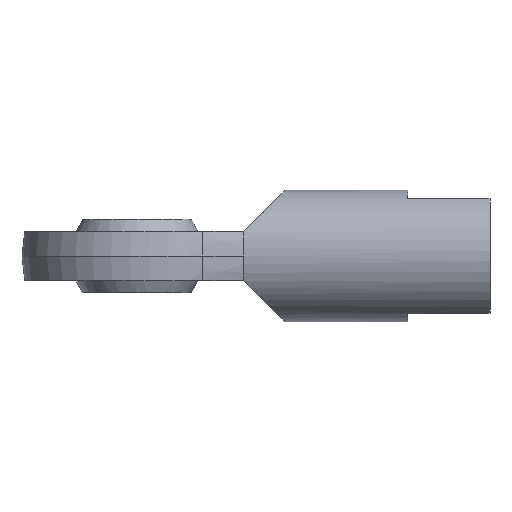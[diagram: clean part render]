
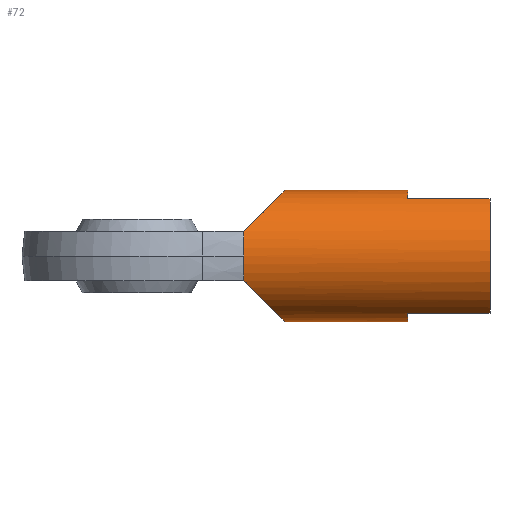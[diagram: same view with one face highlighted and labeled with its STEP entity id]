
A CAD part, front view. The second image highlights one B-rep face of the part: STEP entity #72.
In plain terms, the highlighted cylindrical face has radius 8 mm (diameter 16 mm), a partial arc.
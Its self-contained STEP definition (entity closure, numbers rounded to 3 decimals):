
#21 = VERTEX_POINT ( 'NONE', #531 ) ;
#53 = VERTEX_POINT ( 'NONE', #563 ) ;
#59 = EDGE_CURVE ( 'NONE', #21, #293, #600, .T. ) ;
#60 = ORIENTED_EDGE ( 'NONE', *, *, #59, .F. ) ;
#62 = ORIENTED_EDGE ( 'NONE', *, *, #300, .T. ) ;
#63 = VERTEX_POINT ( 'NONE', #601 ) ;
#64 = ORIENTED_EDGE ( 'NONE', *, *, #65, .T. ) ;
#65 = EDGE_CURVE ( 'NONE', #63, #295, #595, .T. ) ;
#66 = EDGE_LOOP ( 'NONE', ( #67, #69, #64, #62, #60, #85, #84, #80, #78, #75, #98 ) ) ;
#67 = ORIENTED_EDGE ( 'NONE', *, *, #313, .F. ) ;
#68 = EDGE_CURVE ( 'NONE', #63, #320, #590, .T. ) ;
#69 = ORIENTED_EDGE ( 'NONE', *, *, #68, .F. ) ;
#72 = ADVANCED_FACE ( 'NONE', ( #627 ), #629, .T. ) ;
#73 = VERTEX_POINT ( 'NONE', #622 ) ;
#74 = VERTEX_POINT ( 'NONE', #617 ) ;
#75 = ORIENTED_EDGE ( 'NONE', *, *, #76, .F. ) ;
#76 = EDGE_CURVE ( 'NONE', #73, #74, #616, .T. ) ;
#77 = EDGE_CURVE ( 'NONE', #74, #79, #612, .T. ) ;
#78 = ORIENTED_EDGE ( 'NONE', *, *, #77, .F. ) ;
#79 = VERTEX_POINT ( 'NONE', #607 ) ;
#80 = ORIENTED_EDGE ( 'NONE', *, *, #81, .F. ) ;
#81 = EDGE_CURVE ( 'NONE', #79, #83, #606, .T. ) ;
#82 = EDGE_CURVE ( 'NONE', #83, #53, #661, .T. ) ;
#83 = VERTEX_POINT ( 'NONE', #657 ) ;
#84 = ORIENTED_EDGE ( 'NONE', *, *, #82, .F. ) ;
#85 = ORIENTED_EDGE ( 'NONE', *, *, #91, .T. ) ;
#91 = EDGE_CURVE ( 'NONE', #21, #53, #652, .T. ) ;
#98 = ORIENTED_EDGE ( 'NONE', *, *, #100, .F. ) ;
#100 = EDGE_CURVE ( 'NONE', #315, #73, #636, .T. ) ;
#203 = CIRCLE ( 'NONE', #204, 8. ) ;
#204 = AXIS2_PLACEMENT_3D ( 'NONE', #207, #206, #205 ) ;
#205 = DIRECTION ( 'NONE',  ( 0., 1., 0. ) ) ;
#206 = DIRECTION ( 'NONE',  ( 1., 0., 0. ) ) ;
#207 = CARTESIAN_POINT ( 'NONE',  ( 13., 0., 0. ) ) ;
#293 = VERTEX_POINT ( 'NONE', #917 ) ;
#295 = VERTEX_POINT ( 'NONE', #913 ) ;
#300 = EDGE_CURVE ( 'NONE', #295, #293, #203, .T. ) ;
#313 = EDGE_CURVE ( 'NONE', #320, #315, #977, .T. ) ;
#315 = VERTEX_POINT ( 'NONE', #973 ) ;
#320 = VERTEX_POINT ( 'NONE', #971 ) ;
#531 = CARTESIAN_POINT ( 'NONE',  ( 18., 0., -8. ) ) ;
#563 = CARTESIAN_POINT ( 'NONE',  ( 33., 0., -8. ) ) ;
#586 = CARTESIAN_POINT ( 'NONE',  ( 18., 0., 8. ) ) ;
#587 = CARTESIAN_POINT ( 'NONE',  ( 18., -3.365, 8. ) ) ;
#588 = CARTESIAN_POINT ( 'NONE',  ( 16.119, -6.154, 6.119 ) ) ;
#589 = CARTESIAN_POINT ( 'NONE',  ( 13., -7.416, 3. ) ) ;
#590 =( BOUNDED_CURVE ( )  B_SPLINE_CURVE ( 3, ( #589, #588, #587, #586 ),
 .UNSPECIFIED., .F., .T. ) 
 B_SPLINE_CURVE_WITH_KNOTS ( ( 4, 4 ),
 ( 5.097, 6.283 ),
 .UNSPECIFIED. ) 
 CURVE ( )  GEOMETRIC_REPRESENTATION_ITEM ( )  RATIONAL_B_SPLINE_CURVE ( ( 1., 0.886, 0.886, 1. ) ) 
 REPRESENTATION_ITEM ( '' )  );
#591 = DIRECTION ( 'NONE',  ( 0., 1., 0. ) ) ;
#592 = DIRECTION ( 'NONE',  ( 1., 0., 0. ) ) ;
#593 = CARTESIAN_POINT ( 'NONE',  ( 13., 0., 0. ) ) ;
#594 = AXIS2_PLACEMENT_3D ( 'NONE', #593, #592, #591 ) ;
#595 = CIRCLE ( 'NONE', #594, 8. ) ;
#596 = CARTESIAN_POINT ( 'NONE',  ( 13., -7.416, -3. ) ) ;
#597 = CARTESIAN_POINT ( 'NONE',  ( 16.119, -6.154, -6.119 ) ) ;
#598 = CARTESIAN_POINT ( 'NONE',  ( 18., -3.365, -8. ) ) ;
#599 = CARTESIAN_POINT ( 'NONE',  ( 18., 0., -8. ) ) ;
#600 =( BOUNDED_CURVE ( )  B_SPLINE_CURVE ( 3, ( #599, #598, #597, #596 ),
 .UNSPECIFIED., .F., .T. ) 
 B_SPLINE_CURVE_WITH_KNOTS ( ( 4, 4 ),
 ( 0., 1.186 ),
 .UNSPECIFIED. ) 
 CURVE ( )  GEOMETRIC_REPRESENTATION_ITEM ( )  RATIONAL_B_SPLINE_CURVE ( ( 1., 0.886, 0.886, 1. ) ) 
 REPRESENTATION_ITEM ( '' )  );
#601 = CARTESIAN_POINT ( 'NONE',  ( 13., -7.416, 3. ) ) ;
#602 = CARTESIAN_POINT ( 'NONE',  ( 33., 0., 0. ) ) ;
#603 = DIRECTION ( 'NONE',  ( -1., 0., 0. ) ) ;
#604 = VECTOR ( 'NONE', #603, 1000. ) ;
#605 = CARTESIAN_POINT ( 'NONE',  ( 13., -3.873, -7. ) ) ;
#606 = LINE ( 'NONE', #605, #604 ) ;
#607 = CARTESIAN_POINT ( 'NONE',  ( 43., -3.873, -7. ) ) ;
#608 = DIRECTION ( 'NONE',  ( 0., 0., -1. ) ) ;
#609 = DIRECTION ( 'NONE',  ( 1., 0., 0. ) ) ;
#610 = CARTESIAN_POINT ( 'NONE',  ( 43., 0., 0. ) ) ;
#611 = AXIS2_PLACEMENT_3D ( 'NONE', #610, #609, #608 ) ;
#612 = CIRCLE ( 'NONE', #611, 8. ) ;
#613 = DIRECTION ( 'NONE',  ( 1., 0., 0. ) ) ;
#614 = VECTOR ( 'NONE', #613, 1000. ) ;
#615 = CARTESIAN_POINT ( 'NONE',  ( 13., -3.873, 7. ) ) ;
#616 = LINE ( 'NONE', #615, #614 ) ;
#617 = CARTESIAN_POINT ( 'NONE',  ( 43., -3.873, 7. ) ) ;
#618 = DIRECTION ( 'NONE',  ( 0., 0., -1. ) ) ;
#619 = DIRECTION ( 'NONE',  ( 1., 0., 0. ) ) ;
#620 = CARTESIAN_POINT ( 'NONE',  ( 13., 0., 0. ) ) ;
#621 = AXIS2_PLACEMENT_3D ( 'NONE', #620, #619, #618 ) ;
#622 = CARTESIAN_POINT ( 'NONE',  ( 33., -3.873, 7. ) ) ;
#627 = FACE_OUTER_BOUND ( 'NONE', #66, .T. ) ;
#629 = CYLINDRICAL_SURFACE ( 'NONE', #621, 8. ) ;
#632 = DIRECTION ( 'NONE',  ( 0., 0., 1. ) ) ;
#633 = DIRECTION ( 'NONE',  ( 1., 0., 0. ) ) ;
#634 = CARTESIAN_POINT ( 'NONE',  ( 33., 0., 0. ) ) ;
#635 = AXIS2_PLACEMENT_3D ( 'NONE', #634, #633, #632 ) ;
#636 = CIRCLE ( 'NONE', #635, 8. ) ;
#649 = DIRECTION ( 'NONE',  ( 1., 0., 0. ) ) ;
#650 = VECTOR ( 'NONE', #649, 1000. ) ;
#651 = CARTESIAN_POINT ( 'NONE',  ( 13., 0., -8. ) ) ;
#652 = LINE ( 'NONE', #651, #650 ) ;
#657 = CARTESIAN_POINT ( 'NONE',  ( 33., -3.873, -7. ) ) ;
#658 = DIRECTION ( 'NONE',  ( 0., 0., 1. ) ) ;
#659 = DIRECTION ( 'NONE',  ( 1., 0., 0. ) ) ;
#660 = AXIS2_PLACEMENT_3D ( 'NONE', #602, #659, #658 ) ;
#661 = CIRCLE ( 'NONE', #660, 8. ) ;
#913 = CARTESIAN_POINT ( 'NONE',  ( 13., -8., 0. ) ) ;
#917 = CARTESIAN_POINT ( 'NONE',  ( 13., -7.416, -3. ) ) ;
#971 = CARTESIAN_POINT ( 'NONE',  ( 18., 0., 8. ) ) ;
#973 = CARTESIAN_POINT ( 'NONE',  ( 33., 0., 8. ) ) ;
#974 = DIRECTION ( 'NONE',  ( 1., 0., 0. ) ) ;
#975 = VECTOR ( 'NONE', #974, 1000. ) ;
#976 = CARTESIAN_POINT ( 'NONE',  ( 13., 0., 8. ) ) ;
#977 = LINE ( 'NONE', #976, #975 ) ;
